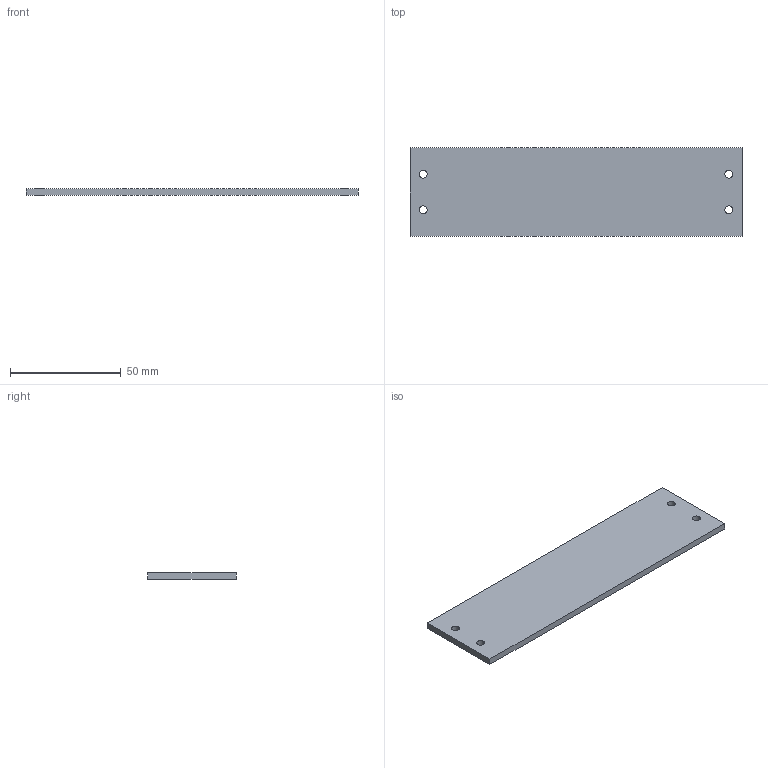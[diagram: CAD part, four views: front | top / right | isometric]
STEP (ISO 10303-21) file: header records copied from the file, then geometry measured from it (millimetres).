
FILE_DESCRIPTION((''),'2;1');
FILE_NAME('PLEXIGLAS-ABDDECKUNG','2019-01-10T',('bej'),(''),'CREO PARAMETRIC BY PTC INC, 2017020','CREO PARAMETRIC BY PTC INC, 2017020','');
FILE_SCHEMA(('CONFIG_CONTROL_DESIGN'));
Length unit declared in the file: millimetre
Products named in the file (1): PLEXIGLAS-ABDDECKUNG
Bounding box: 150 x 40 x 3 mm (x, y, z)
Volume: 17884.5 mm3; surface area: 13195 mm2
Topology: 1 solids, 1 shells, 14 faces, 36 edges, 24 vertices
Faces by surface type: cylinder 8, plane 6
Entity records: 490 total; most frequent: DIRECTION 80, CARTESIAN_POINT 74, ORIENTED_EDGE 72, EDGE_CURVE 36, AXIS2_PLACEMENT_3D 30, VERTEX_POINT 24, EDGE_LOOP 22, VECTOR 20
